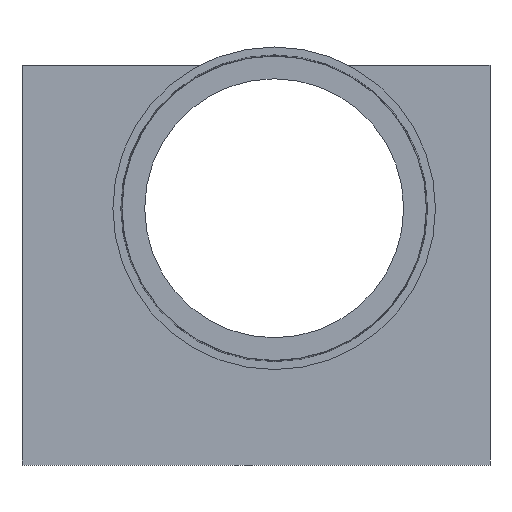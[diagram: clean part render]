
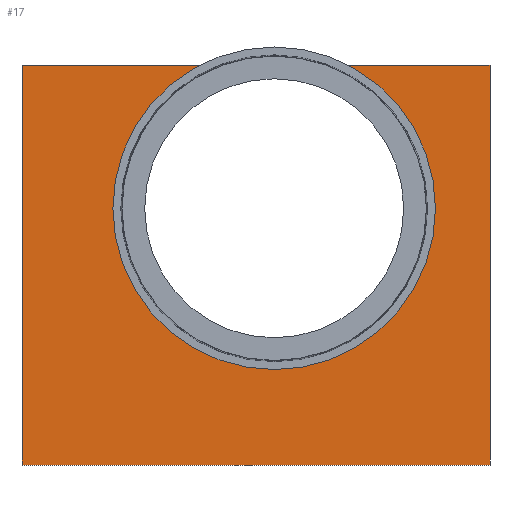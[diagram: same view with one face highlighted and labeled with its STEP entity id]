
A CAD part, left-side view. The second image highlights one B-rep face of the part: STEP entity #17.
In plain terms, the highlighted planar face has unit normal (-1, 0, 0).
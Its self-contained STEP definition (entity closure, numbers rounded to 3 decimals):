
#17 = ADVANCED_FACE('',(#18),#78,.F.);
#18 = FACE_BOUND('',#19,.F.);
#19 = EDGE_LOOP('',(#20,#30,#38,#46,#54,#62,#71));
#20 = ORIENTED_EDGE('',*,*,#21,.F.);
#21 = EDGE_CURVE('',#22,#24,#26,.T.);
#22 = VERTEX_POINT('',#23);
#23 = CARTESIAN_POINT('',(-3.7,18.2,27.8));
#24 = VERTEX_POINT('',#25);
#25 = CARTESIAN_POINT('',(-3.7,24.673,27.8));
#26 = LINE('',#27,#28);
#27 = CARTESIAN_POINT('',(-3.7,18.2,27.8));
#28 = VECTOR('',#29,1.);
#29 = DIRECTION('',(-0.,1.,0.));
#30 = ORIENTED_EDGE('',*,*,#31,.F.);
#31 = EDGE_CURVE('',#32,#22,#34,.T.);
#32 = VERTEX_POINT('',#33);
#33 = CARTESIAN_POINT('',(-3.7,18.2,10.2));
#34 = LINE('',#35,#36);
#35 = CARTESIAN_POINT('',(-3.7,18.2,10.2));
#36 = VECTOR('',#37,1.);
#37 = DIRECTION('',(0.,0.,1.));
#38 = ORIENTED_EDGE('',*,*,#39,.T.);
#39 = EDGE_CURVE('',#32,#40,#42,.T.);
#40 = VERTEX_POINT('',#41);
#41 = CARTESIAN_POINT('',(-3.7,38.8,10.2));
#42 = LINE('',#43,#44);
#43 = CARTESIAN_POINT('',(-3.7,18.2,10.2));
#44 = VECTOR('',#45,1.);
#45 = DIRECTION('',(-0.,1.,0.));
#46 = ORIENTED_EDGE('',*,*,#47,.T.);
#47 = EDGE_CURVE('',#40,#48,#50,.T.);
#48 = VERTEX_POINT('',#49);
#49 = CARTESIAN_POINT('',(-3.7,38.8,27.8));
#50 = LINE('',#51,#52);
#51 = CARTESIAN_POINT('',(-3.7,38.8,10.2));
#52 = VECTOR('',#53,1.);
#53 = DIRECTION('',(0.,0.,1.));
#54 = ORIENTED_EDGE('',*,*,#55,.F.);
#55 = EDGE_CURVE('',#56,#48,#58,.T.);
#56 = VERTEX_POINT('',#57);
#57 = CARTESIAN_POINT('',(-3.7,30.727,27.8));
#58 = LINE('',#59,#60);
#59 = CARTESIAN_POINT('',(-3.7,18.2,27.8));
#60 = VECTOR('',#61,1.);
#61 = DIRECTION('',(-0.,1.,0.));
#62 = ORIENTED_EDGE('',*,*,#63,.T.);
#63 = EDGE_CURVE('',#56,#64,#66,.T.);
#64 = VERTEX_POINT('',#65);
#65 = CARTESIAN_POINT('',(-3.7,27.7,14.511));
#66 = CIRCLE('',#67,6.989);
#67 = AXIS2_PLACEMENT_3D('',#68,#69,#70);
#68 = CARTESIAN_POINT('',(-3.7,27.7,21.5));
#69 = DIRECTION('',(-1.,0.,0.));
#70 = DIRECTION('',(0.,0.,-1.));
#71 = ORIENTED_EDGE('',*,*,#72,.T.);
#72 = EDGE_CURVE('',#64,#24,#73,.T.);
#73 = CIRCLE('',#74,6.989);
#74 = AXIS2_PLACEMENT_3D('',#75,#76,#77);
#75 = CARTESIAN_POINT('',(-3.7,27.7,21.5));
#76 = DIRECTION('',(-1.,0.,0.));
#77 = DIRECTION('',(0.,0.,-1.));
#78 = PLANE('',#79);
#79 = AXIS2_PLACEMENT_3D('',#80,#81,#82);
#80 = CARTESIAN_POINT('',(-3.7,18.2,10.2));
#81 = DIRECTION('',(1.,0.,-0.));
#82 = DIRECTION('',(0.,0.,1.));
